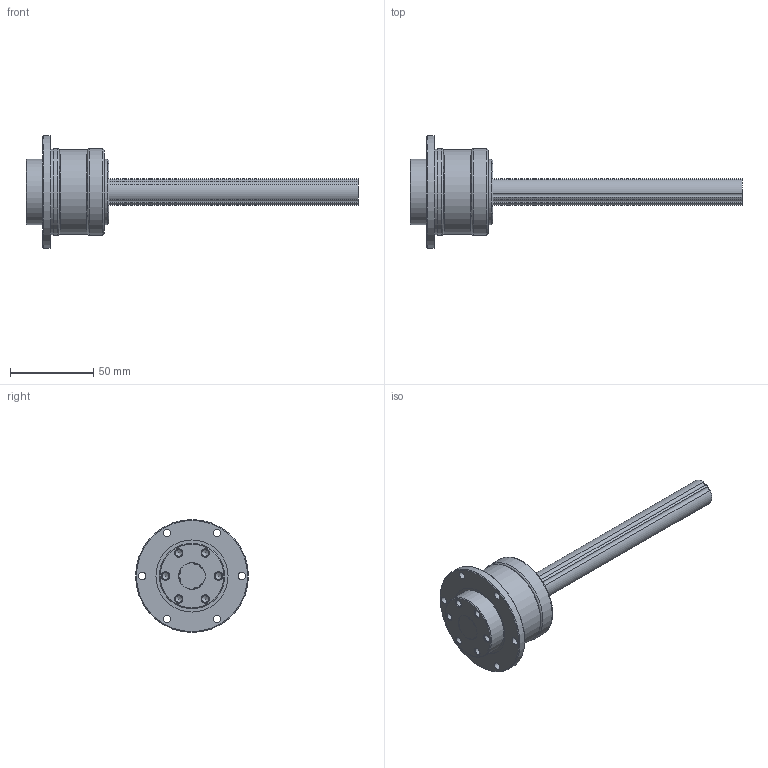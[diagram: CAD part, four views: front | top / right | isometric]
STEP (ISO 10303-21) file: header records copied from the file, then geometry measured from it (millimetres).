
FILE_DESCRIPTION(/* description */ ('STEP AP214'),/* implementation_level */ '2;1');
FILE_NAME(/* name */ 'LTR16+200L(00-)',/* time_stamp */ '2024-09-04T12:24:18+02:00',/* author */ ('License CC BY-ND 4.0'),/* organization */ ('CADENAS'),/* preprocessor_version */ 'ST-DEVELOPER v19.3',/* originating_system */ 'PARTsolutions',/* authorisation */ ' ');
FILE_SCHEMA (('AUTOMOTIVE_DESIGN {1 0 10303 214 3 1 1}'));
Length unit declared in the file: millimetre
Products named in the file (3): LTR16+200L(00-); LTR 16200 CTLTR Shaft; LTR 16 CTLTR Cyl
Assembly tree (3 placements, depth 2):
  LTR16+200L(00-)
    LTR 16200 CTLTR Shaft
    LTR 16 CTLTR Cyl  x2
Bounding box: 200 x 68 x 68 mm (x, y, z)
Volume: 213492.5 mm3; surface area: 49432.7 mm2
Topology: 3 solids, 3 shells, 120 faces, 280 edges, 180 vertices
Faces by surface type: cylinder 58, cone 36, plane 20, torus 6
Full cylindrical faces by diameter (mm): 4.134 x12, 4.5 x12, 16 x2, 39.5 x4, 43.45 x2, 46.8 x2, 51 x2, 51.4 x2, 52 x4, 52.4 x2, 68 x2
Entity records: 1699 total; most frequent: DIRECTION 320, CARTESIAN_POINT 255, ORIENTED_EDGE 190, AXIS2_PLACEMENT_3D 154, FACE_BOUND 138, EDGE_LOOP 132, EDGE_CURVE 95, VERTEX_POINT 89
